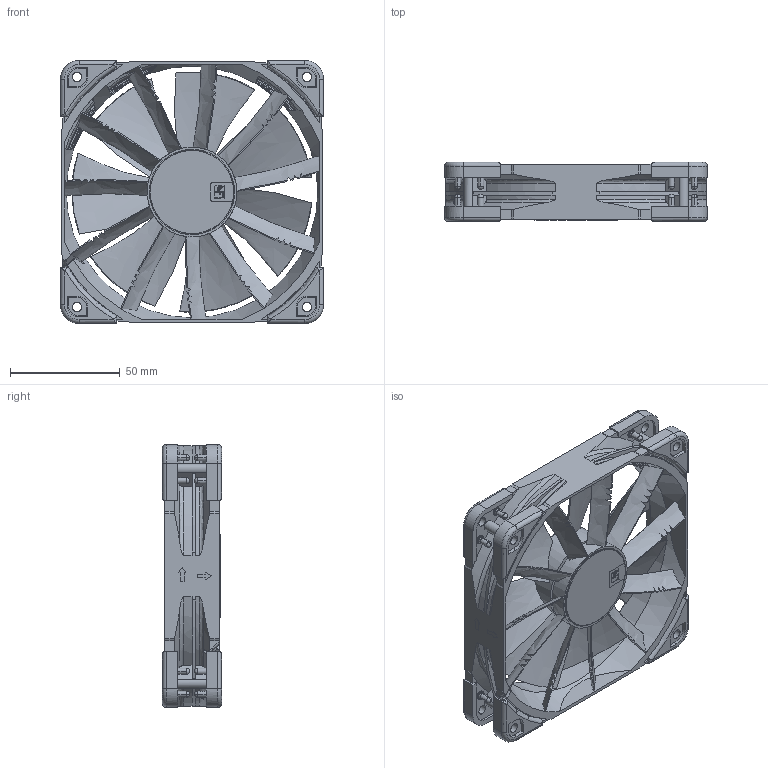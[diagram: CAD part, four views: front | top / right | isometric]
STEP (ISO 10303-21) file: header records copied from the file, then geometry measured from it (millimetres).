
FILE_DESCRIPTION(/* description */ ('140mm Desk Fan'),/* implementation_level */ '2;1');
FILE_NAME(/* name */ 'NF-F12_Chromax_Public-CAD',/* time_stamp */ '2026-04-10T16:10:55+02:00',/* author */ ('Andreas'),/* organization */ ('Rascom'),/* preprocessor_version */ 'ST-DEVELOPER v18.102',/* originating_system */ 'Solid Edge',/* authorisation */ 'Unknown');
FILE_SCHEMA (('AUTOMOTIVE_DESIGN {1 0 10303 214 3 1 1}'));
Length unit declared in the file: millimetre
Products named in the file (6): NF-F12_Chromax_Public-CAD; NF-F12_Public-CAD; NF-F12_frame-public; NF-F12_impeller-public; NA-AVP1; Fan-Label-D38mm-Chromax
Assembly tree (12 placements, depth 3):
  NF-F12_Chromax_Public-CAD
    NF-F12_Public-CAD
      NF-F12_frame-public
      NF-F12_impeller-public
      NA-AVP1  x8
    Fan-Label-D38mm-Chromax
Bounding box: 120 x 27 x 120 mm (x, y, z)
Volume: 96034.8 mm3; surface area: 81614.2 mm2
Topology: 11 solids, 11 shells, 1180 faces, 3276 edges, 2151 vertices
Faces by surface type: plane 512, cylinder 346, torus 118, cone 90, bspline 82, sphere 32
Full cylindrical faces by diameter (mm): 3 x16, 4.3 x8, 38 x1, 39 x1, 41 x2, 114.9 x1
Entity records: 37716 total; most frequent: CARTESIAN_POINT 19944, ORIENTED_EDGE 4174, DIRECTION 2599, EDGE_CURVE 2087, VERTEX_POINT 1421, B_SPLINE_CURVE_WITH_KNOTS 1078, AXIS2_PLACEMENT_3D 951, EDGE_LOOP 874
